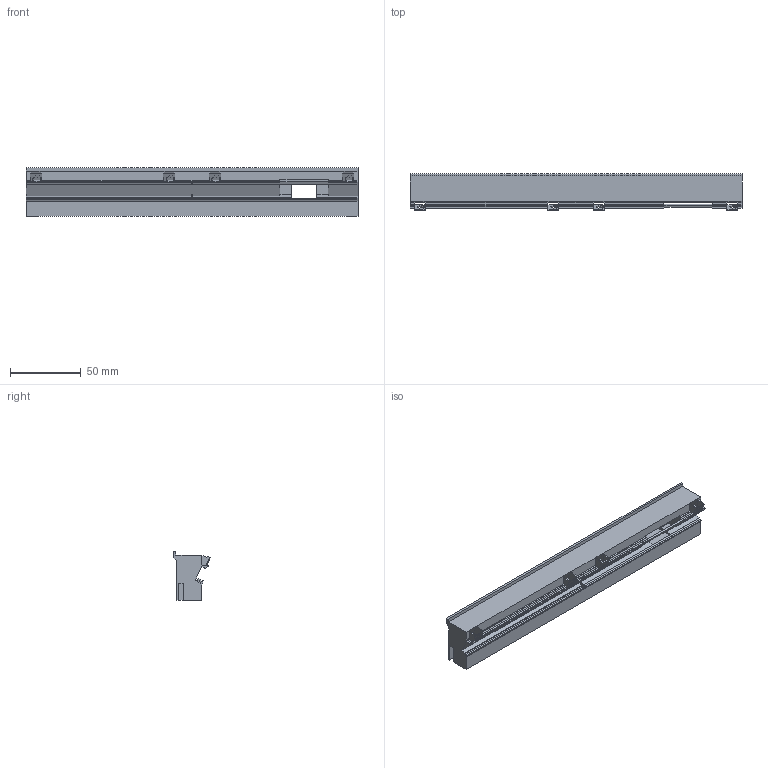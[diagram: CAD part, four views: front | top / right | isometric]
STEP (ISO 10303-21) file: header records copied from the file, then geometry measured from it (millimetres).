
FILE_DESCRIPTION(('Open CASCADE Model'),'2;1');
FILE_NAME('SOLID','2026-10-21T18:57:18',('Author'),('Open CASCADE'), 'Open CASCADE STEP processor 8.0','build123d','Unknown');
FILE_SCHEMA(('AUTOMOTIVE_DESIGN { 1 0 10303 214 1 1 1 1 }'));
Products named in the file (1): SOLID
Bounding box: 234 x 25.92 x 34.5 mm (x, y, z)
Volume: 123018.4 mm3; surface area: 32094.9 mm2
Topology: 1 solids, 1 shells, 644 faces, 1833 edges, 1176 vertices
Faces by surface type: plane 368, cylinder 276
Entity records: 49263 total; most frequent: CARTESIAN_POINT 14334, DIRECTION 6220, ORIENTED_EDGE 3666, PCURVE 3666, DEFINITIONAL_REPRESENTATION 3666, LINE 2923, VECTOR 2923, EDGE_CURVE 1833
